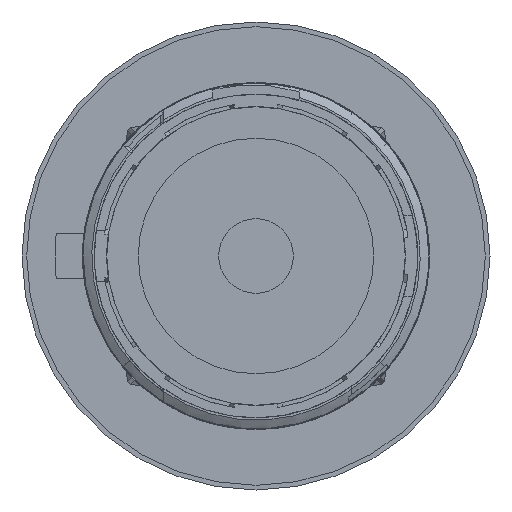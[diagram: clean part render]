
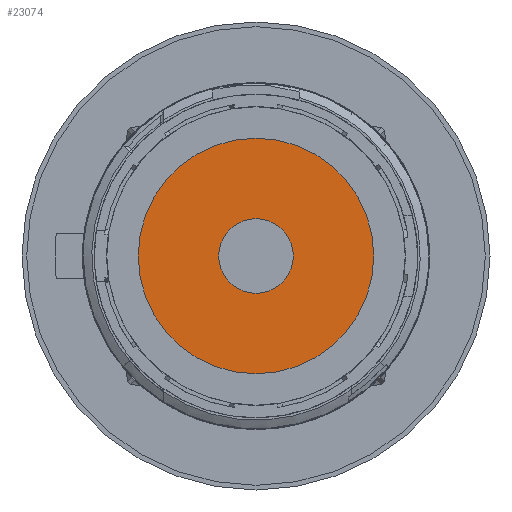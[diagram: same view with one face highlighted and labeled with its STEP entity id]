
A CAD part, front view. The second image highlights one B-rep face of the part: STEP entity #23074.
In plain terms, the highlighted planar face has unit normal (0, -1, 0).
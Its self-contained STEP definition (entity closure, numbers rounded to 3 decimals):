
#8557=CARTESIAN_POINT('',(0.,5.25,0.));
#8558=DIRECTION('',(0.,1.,0.));
#8559=DIRECTION('',(1.,0.,0.));
#8560=AXIS2_PLACEMENT_3D('',#8557,#8558,#8559);
#8562=CARTESIAN_POINT('',(0.,5.25,0.));
#8563=DIRECTION('',(0.,1.,0.));
#8564=DIRECTION('',(-1.,0.,0.));
#8565=AXIS2_PLACEMENT_3D('',#8562,#8563,#8564);
#8567=CARTESIAN_POINT('',(0.,5.25,0.));
#8568=DIRECTION('',(0.,-1.,0.));
#8569=DIRECTION('',(1.,0.,0.));
#8570=AXIS2_PLACEMENT_3D('',#8567,#8568,#8569);
#8572=CARTESIAN_POINT('',(0.,5.25,0.));
#8573=DIRECTION('',(0.,-1.,0.));
#8574=DIRECTION('',(-1.,0.,0.));
#8575=AXIS2_PLACEMENT_3D('',#8572,#8573,#8574);
#11280=CARTESIAN_POINT('',(-7.5,5.25,0.));
#11281=VERTEX_POINT('',#11280);
#11282=CARTESIAN_POINT('',(7.5,5.25,0.));
#11283=VERTEX_POINT('',#11282);
#11284=CARTESIAN_POINT('',(2.375,5.25,0.));
#11285=CARTESIAN_POINT('',(-2.375,5.25,0.));
#11286=VERTEX_POINT('',#11284);
#11287=VERTEX_POINT('',#11285);
#23059=CARTESIAN_POINT('',(0.,5.25,0.));
#23060=DIRECTION('',(0.,-1.,0.));
#23061=DIRECTION('',(-1.,0.,0.));
#23062=AXIS2_PLACEMENT_3D('',#23059,#23060,#23061);
#23063=PLANE('',#23062);
#23064=ORIENTED_EDGE('',*,*,#23052,.T.);
#23065=ORIENTED_EDGE('',*,*,#23041,.T.);
#23066=EDGE_LOOP('',(#23064,#23065));
#23067=FACE_OUTER_BOUND('',#23066,.F.);
#23069=ORIENTED_EDGE('',*,*,#23068,.T.);
#23071=ORIENTED_EDGE('',*,*,#23070,.T.);
#23072=EDGE_LOOP('',(#23069,#23071));
#23073=FACE_BOUND('',#23072,.F.);
#8561=CIRCLE('',#8560,7.5);
#8566=CIRCLE('',#8565,7.5);
#8571=CIRCLE('',#8570,2.375);
#8576=CIRCLE('',#8575,2.375);
#23041=EDGE_CURVE('',#11281,#11283,#8566,.T.);
#23052=EDGE_CURVE('',#11283,#11281,#8561,.T.);
#23068=EDGE_CURVE('',#11286,#11287,#8571,.T.);
#23070=EDGE_CURVE('',#11287,#11286,#8576,.T.);
#23074=ADVANCED_FACE('',(#23067,#23073),#23063,.T.);
